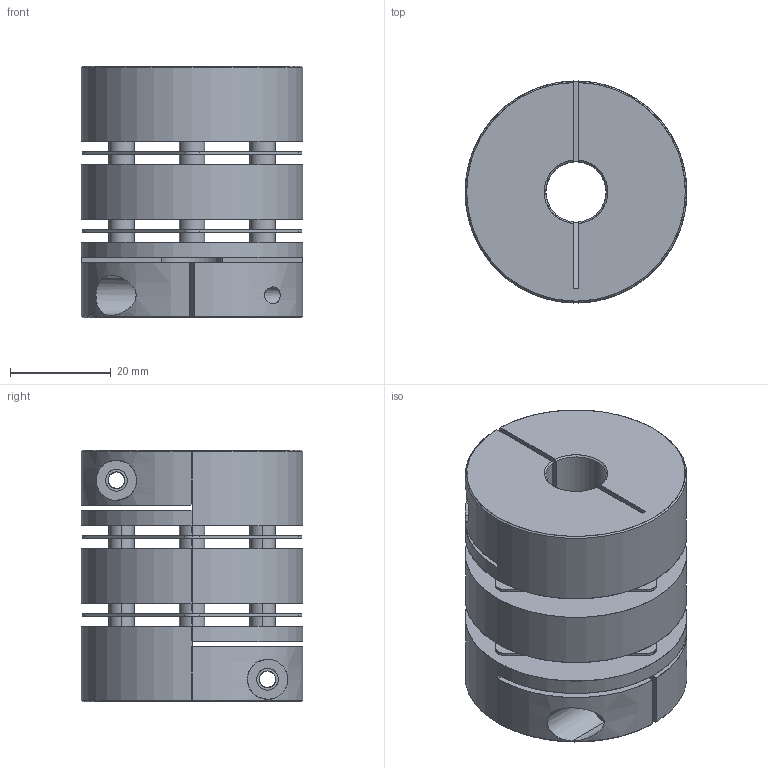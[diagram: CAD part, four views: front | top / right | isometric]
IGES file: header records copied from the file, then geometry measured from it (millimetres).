
Start section: SolidWorks IGES file using analytic representation for surfaces
Bounding box: 44 x 44 x 50 mm (x, y, z)
Surface area: 23627.1 mm2 (no closed solid volume)
Topology: 0 solids, 0 shells, 134 faces, 3070 edges, 3070 vertices
Faces by surface type: revolution 90, bspline 44
